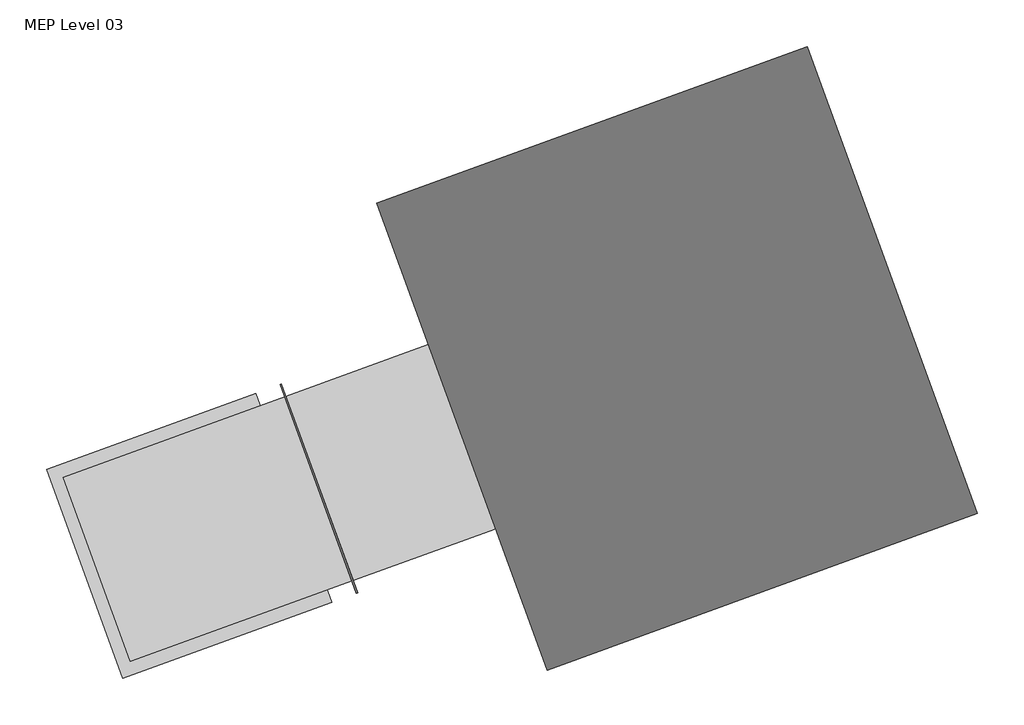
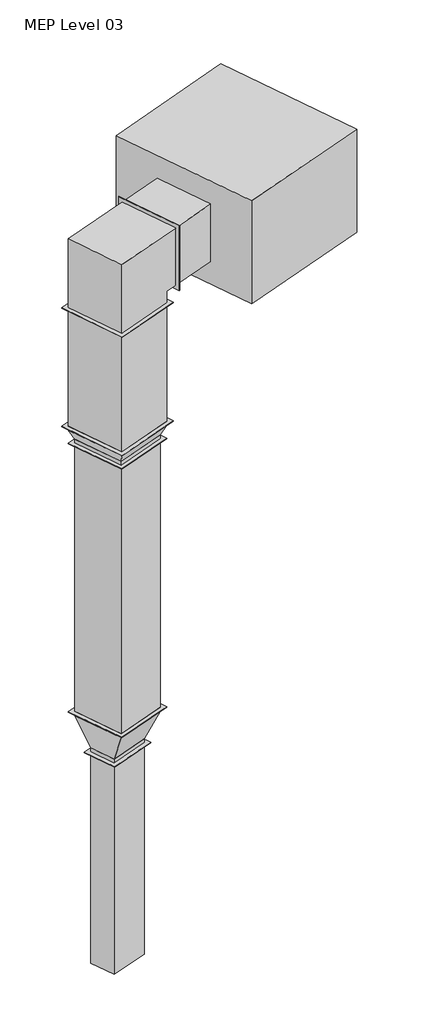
# One storey, incomplete: 4 duct segments, 3 duct fittings, 1 proxy.
"""IFC4 building model written with IfcOpenShell, lengths in millimetres."""

from ifc_helpers import new_model, si_unit, frame, origin, place, context, project, spatial, polyline, outline, extrude, transform, mapped, element, save
from components import rooftop_ahu_fan_31743b31, dw144_rectangular_square_bend_flanged_standard_92bc3252, dw144_rectangular_taper_flanged_standard_8523b065, dw144_rectangular_taper_flanged_standard_d94a413d

model = new_model("IFC4")

# Units and contexts
model_context = context("Model", 3, world=origin())
ifc_project = project(units=[si_unit("LENGTHUNIT", "METRE", prefix="MILLI")], contexts=[model_context])

# Site, building, storey
site = spatial("IfcSite", under=ifc_project)
building = spatial("IfcBuilding", under=site)
storey = spatial("IfcBuildingStorey", under=building, Name="MEP Level 03", Elevation=11700.0)

# Proxy
placement = place(None, origin())
rooftop_ahu_fan_shape = rooftop_ahu_fan_31743b31(model_context)
element("IfcBuildingElementProxy", 1, Name="Rooftop AHU Fan : Forward Curved Fan - 3,300 L/s", ObjectType="Rooftop AHU Fan : Forward Curved Fan - 3,300 L/s", at=placement, inside=storey, context=model_context, shape_type="MappedRepresentation", body=[
    mapped(rooftop_ahu_fan_shape, transform((40761.6871642, 8411.3303076, 11825.0), x_axis=(0.939692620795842, 0.34202014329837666, 0.0), y_axis=(-0.34202014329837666, 0.939692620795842, 0.0), z_axis=(0.0, 0.0, 1.0))),
])

# Duct fittings
dw144_rectangular_square_bend_flanged_standard_shape = dw144_rectangular_square_bend_flanged_standard_92bc3252(model_context)
element("IfcDuctFitting", 2, ObjectType="DW144 Rectangular Square Bend - Flanged : Standard", at=placement, inside=storey, context=model_context, shape_type="MappedRepresentation", body=[
    mapped(dw144_rectangular_square_bend_flanged_standard_shape, transform((37749.926358, 8326.1079054, 12500.0), x_axis=(0.0, 0.0, 1.0), y_axis=(0.9396926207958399, 0.34202014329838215, 0.0), z_axis=(-0.34202014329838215, 0.9396926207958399, 0.0))),
])
dw144_rectangular_taper_flanged_standard_shape = dw144_rectangular_taper_flanged_standard_8523b065(model_context)
element("IfcDuctFitting", 3, ObjectType="DW144 Rectangular Taper - Flanged : Standard", at=placement, inside=storey, context=model_context, shape_type="MappedRepresentation", body=[
    mapped(dw144_rectangular_taper_flanged_standard_shape, transform((37749.926358, 8326.1079054, 10423.0), x_axis=(0.0, 0.0, -1.0), y_axis=(-0.3420201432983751, 0.9396926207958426, 0.0), z_axis=(0.9396926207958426, 0.3420201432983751, 0.0))),
])
dw144_rectangular_taper_flanged_standard_2_shape = dw144_rectangular_taper_flanged_standard_d94a413d(model_context)
element("IfcDuctFitting", 4, ObjectType="DW144 Rectangular Taper - Flanged : Standard", at=placement, inside=storey, context=model_context, shape_type="MappedRepresentation", body=[
    mapped(dw144_rectangular_taper_flanged_standard_2_shape, transform((37749.926358, 8326.1079054, 6177.0861383), x_axis=(0.0, 0.0, 1.0), y_axis=(0.3420201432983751, -0.9396926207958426, 0.0), z_axis=(0.9396926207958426, 0.3420201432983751, 0.0))),
])

# Duct segments
element("IfcDuctSegment", 5, ObjectType="DW144 Flanged Square Bend / Tee", at=placement, inside=storey, context=model_context, shape_type="SweptSolid", body=[
    extrude(outline(polyline([(37570.5814761, 8087.9028187), (37459.4249295, 8393.3029204), (37929.2712399, 8564.3129921), (38040.4277865, 8258.9128903), (37570.5814761, 8087.9028187)])), frame((0.0, 0.0, 3410.0), z_axis=(0.0, 0.0, 1.0), x_axis=(1.0, 0.0, 0.0)), (0.0, 0.0, 1.0), 2767.0861383),
])
element("IfcDuctSegment", 6, ObjectType="DW144 Flanged Square Bend / Tee", at=placement, inside=storey, context=model_context, shape_type="SweptSolid", body=[
    extrude(outline(polyline([(37333.3697096, 8520.3514605), (37944.1699132, 8742.6645537), (38166.4830063, 8131.8643502), (37555.6828028, 7909.551257), (37333.3697096, 8520.3514605)])), frame((0.0, 0.0, 6679.3958421), z_axis=(0.0, 0.0, 1.0), x_axis=(1.0, 0.0, 0.0)), (0.0, 0.0, 1.0), 3512.8934797),
])
element("IfcDuctSegment", 7, ObjectType="DW144 Flanged Square Bend / Tee", at=placement, inside=storey, context=model_context, shape_type="SweptSolid", body=[
    extrude(outline(polyline([(37269.2840714, 8550.2350844), (37974.053537, 8806.7501919), (38230.5686445, 8101.9807263), (37525.7991789, 7845.4656188), (37269.2840714, 8550.2350844)])), frame((0.0, 0.0, 10423.0), z_axis=(0.0, 0.0, 1.0), x_axis=(1.0, 0.0, 0.0)), (0.0, 0.0, 1.0), 1547.0),
])
element("IfcDuctSegment", 8, ObjectType="DW144 Flanged Square Bend / Tee", at=placement, inside=storey, context=model_context, shape_type="SweptSolid", body=[
    extrude(outline(polyline([(38376.2210007, 8154.9938485), (38119.7058933, 8859.7633141), (38664.048388, 9057.8877794), (38920.5634955, 8353.1183138), (38376.2210007, 8154.9938485)])), frame((0.0, 0.0, 12125.0), z_axis=(0.0, 0.0, 1.0), x_axis=(1.0, 0.0, 0.0)), (0.0, 0.0, 1.0), 750.0),
])

save(model, "model.ifc")
